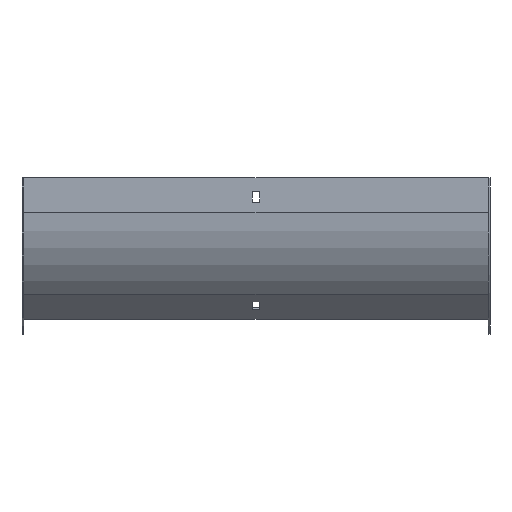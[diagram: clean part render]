
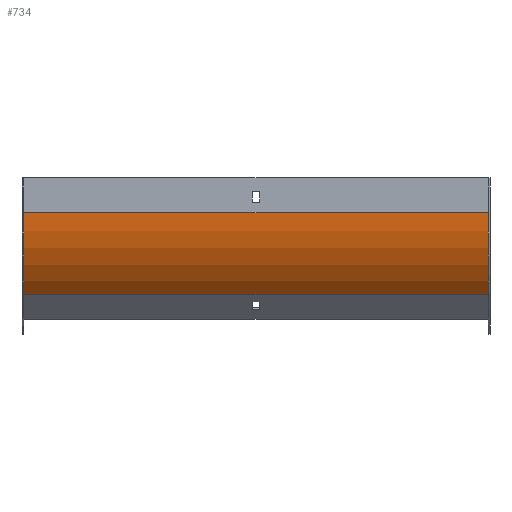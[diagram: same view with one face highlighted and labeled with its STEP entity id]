
A CAD part, front view. The second image highlights one B-rep face of the part: STEP entity #734.
In plain terms, the highlighted cylindrical face has radius 100 mm (diameter 200 mm), a partial arc.
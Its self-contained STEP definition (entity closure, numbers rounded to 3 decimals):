
#54 = AXIS2_PLACEMENT_3D ( 'NONE', #151, #502, #693 ) ;
#58 = FACE_OUTER_BOUND ( 'NONE', #852, .T. ) ;
#84 = CARTESIAN_POINT ( 'NONE',  ( 200.5, -1.5, -30. ) ) ;
#86 = EDGE_CURVE ( 'NONE', #207, #114, #351, .T. ) ;
#90 = CARTESIAN_POINT ( 'NONE',  ( 200.5, 27.789, -100.711 ) ) ;
#113 = VERTEX_POINT ( 'NONE', #90 ) ;
#114 = VERTEX_POINT ( 'NONE', #163 ) ;
#124 = ORIENTED_EDGE ( 'NONE', *, *, #365, .T. ) ;
#145 = AXIS2_PLACEMENT_3D ( 'NONE', #803, #668, #722 ) ;
#151 = CARTESIAN_POINT ( 'NONE',  ( 200.5, 98.5, -30. ) ) ;
#163 = CARTESIAN_POINT ( 'NONE',  ( -200.5, -1.5, -30. ) ) ;
#179 = VERTEX_POINT ( 'NONE', #733 ) ;
#192 = DIRECTION ( 'NONE',  ( -1., 0., 0. ) ) ;
#207 = VERTEX_POINT ( 'NONE', #84 ) ;
#244 = EDGE_CURVE ( 'NONE', #179, #114, #602, .T. ) ;
#268 = AXIS2_PLACEMENT_3D ( 'NONE', #787, #192, #719 ) ;
#281 = CARTESIAN_POINT ( 'NONE',  ( 202., -1.5, -30. ) ) ;
#318 = VECTOR ( 'NONE', #531, 1000. ) ;
#351 = LINE ( 'NONE', #281, #698 ) ;
#365 = EDGE_CURVE ( 'NONE', #113, #207, #614, .T. ) ;
#483 = LINE ( 'NONE', #735, #318 ) ;
#502 = DIRECTION ( 'NONE',  ( -1., 0., 0. ) ) ;
#531 = DIRECTION ( 'NONE',  ( -1., 0., 0. ) ) ;
#547 = DIRECTION ( 'NONE',  ( -1., 0., 0. ) ) ;
#599 = EDGE_CURVE ( 'NONE', #113, #179, #483, .T. ) ;
#602 = CIRCLE ( 'NONE', #145, 100. ) ;
#614 = CIRCLE ( 'NONE', #54, 100. ) ;
#618 = ORIENTED_EDGE ( 'NONE', *, *, #244, .F. ) ;
#654 = ORIENTED_EDGE ( 'NONE', *, *, #86, .T. ) ;
#668 = DIRECTION ( 'NONE',  ( -1., 0., 0. ) ) ;
#693 = DIRECTION ( 'NONE',  ( 0., 0., -1. ) ) ;
#698 = VECTOR ( 'NONE', #547, 1000. ) ;
#719 = DIRECTION ( 'NONE',  ( 0., 0., 1. ) ) ;
#722 = DIRECTION ( 'NONE',  ( 0., 0., -1. ) ) ;
#733 = CARTESIAN_POINT ( 'NONE',  ( -200.5, 27.789, -100.711 ) ) ;
#734 = ADVANCED_FACE ( 'NONE', ( #58 ), #853, .T. ) ;
#735 = CARTESIAN_POINT ( 'NONE',  ( 202., 27.789, -100.711 ) ) ;
#787 = CARTESIAN_POINT ( 'NONE',  ( 202., 98.5, -30. ) ) ;
#803 = CARTESIAN_POINT ( 'NONE',  ( -200.5, 98.5, -30. ) ) ;
#825 = ORIENTED_EDGE ( 'NONE', *, *, #599, .F. ) ;
#852 = EDGE_LOOP ( 'NONE', ( #618, #825, #124, #654 ) ) ;
#853 = CYLINDRICAL_SURFACE ( 'NONE', #268, 100. ) ;
